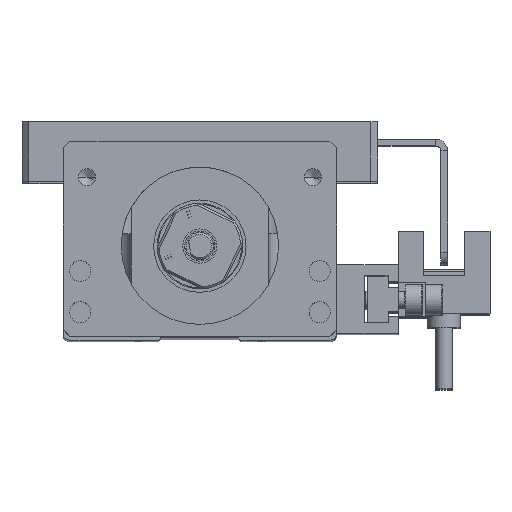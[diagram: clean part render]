
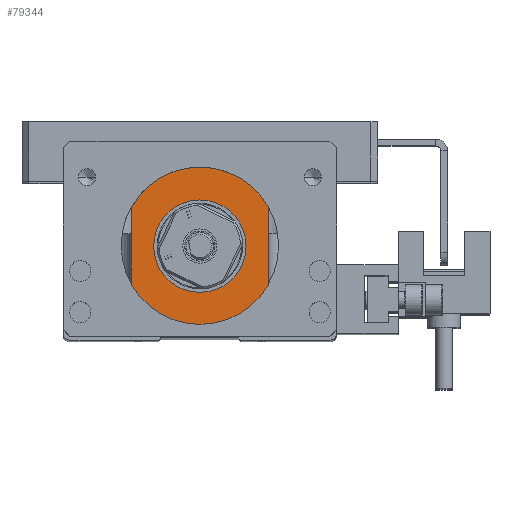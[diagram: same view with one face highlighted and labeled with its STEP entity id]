
A CAD part, top view. The second image highlights one B-rep face of the part: STEP entity #79344.
In plain terms, the highlighted planar face has unit normal (0, 0, 1).
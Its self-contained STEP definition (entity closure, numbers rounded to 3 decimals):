
#46 = CIRCLE ( 'NONE', #11444, 6.75 ) ;
#2218 = EDGE_CURVE ( 'NONE', #32791, #12548, #69938, .T. ) ;
#2838 = CARTESIAN_POINT ( 'NONE',  ( 10., 29., 90. ) ) ;
#3099 = CARTESIAN_POINT ( 'NONE',  ( -10., 0.5, 90. ) ) ;
#3492 = LINE ( 'NONE', #17863, #14364 ) ;
#4366 = CARTESIAN_POINT ( 'NONE',  ( 10., 0.5, 90. ) ) ;
#4763 = EDGE_CURVE ( 'NONE', #48157, #70928, #46, .T. ) ;
#9399 = LINE ( 'NONE', #3099, #43580 ) ;
#9774 = DIRECTION ( 'NONE',  ( 0., 1., 0. ) ) ;
#9892 = CARTESIAN_POINT ( 'NONE',  ( 0., 13.7, 90. ) ) ;
#10302 = CIRCLE ( 'NONE', #14619, 6.75 ) ;
#10621 = CARTESIAN_POINT ( 'NONE',  ( 0., 13.7, 90. ) ) ;
#11444 = AXIS2_PLACEMENT_3D ( 'NONE', #9892, #16633, #43167 ) ;
#12089 = CARTESIAN_POINT ( 'NONE',  ( -13., 0.5, 90. ) ) ;
#12548 = VERTEX_POINT ( 'NONE', #2838 ) ;
#14364 = VECTOR ( 'NONE', #25950, 1000. ) ;
#14619 = AXIS2_PLACEMENT_3D ( 'NONE', #10621, #50218, #72600 ) ;
#15276 = LINE ( 'NONE', #35524, #88168 ) ;
#15856 = EDGE_CURVE ( 'NONE', #51857, #60239, #3492, .T. ) ;
#16253 = ORIENTED_EDGE ( 'NONE', *, *, #4763, .F. ) ;
#16633 = DIRECTION ( 'NONE',  ( 0., 0., 1. ) ) ;
#17120 = ORIENTED_EDGE ( 'NONE', *, *, #2218, .T. ) ;
#17863 = CARTESIAN_POINT ( 'NONE',  ( -10., 0.5, 90. ) ) ;
#18796 = ORIENTED_EDGE ( 'NONE', *, *, #35637, .T. ) ;
#19975 = LINE ( 'NONE', #47374, #34038 ) ;
#21036 = ORIENTED_EDGE ( 'NONE', *, *, #77551, .F. ) ;
#23771 = DIRECTION ( 'NONE',  ( 0., -1., 0. ) ) ;
#24292 = CARTESIAN_POINT ( 'NONE',  ( 10., 15.5, 90. ) ) ;
#25950 = DIRECTION ( 'NONE',  ( 0., -1., 0. ) ) ;
#26336 = CARTESIAN_POINT ( 'NONE',  ( -10., 0.5, 90. ) ) ;
#28665 = ORIENTED_EDGE ( 'NONE', *, *, #15856, .T. ) ;
#29468 = CARTESIAN_POINT ( 'NONE',  ( -10., 15.5, 90. ) ) ;
#30731 = EDGE_LOOP ( 'NONE', ( #47145, #18796, #28665, #37457, #59031, #17120 ) ) ;
#32791 = VERTEX_POINT ( 'NONE', #24292 ) ;
#34038 = VECTOR ( 'NONE', #40651, 1000. ) ;
#35352 = DIRECTION ( 'NONE',  ( 0., 1., 0. ) ) ;
#35524 = CARTESIAN_POINT ( 'NONE',  ( -13., 29., 90. ) ) ;
#35637 = EDGE_CURVE ( 'NONE', #64738, #51857, #9399, .T. ) ;
#37457 = ORIENTED_EDGE ( 'NONE', *, *, #72582, .F. ) ;
#37986 = EDGE_CURVE ( 'NONE', #12548, #64738, #15276, .T. ) ;
#40651 = DIRECTION ( 'NONE',  ( -1., 0., 0. ) ) ;
#42263 = DIRECTION ( 'NONE',  ( -1., 0., 0. ) ) ;
#43167 = DIRECTION ( 'NONE',  ( 1., 0., 0. ) ) ;
#43339 = VERTEX_POINT ( 'NONE', #4366 ) ;
#43580 = VECTOR ( 'NONE', #23771, 1000. ) ;
#43937 = CARTESIAN_POINT ( 'NONE',  ( 10., 29., 90. ) ) ;
#44908 = FACE_OUTER_BOUND ( 'NONE', #30731, .T. ) ;
#45348 = DIRECTION ( 'NONE',  ( 0., 0., -1. ) ) ;
#46147 = CARTESIAN_POINT ( 'NONE',  ( -6.75, 13.7, 90. ) ) ;
#46230 = CARTESIAN_POINT ( 'NONE',  ( 6.75, 13.7, 90. ) ) ;
#47145 = ORIENTED_EDGE ( 'NONE', *, *, #37986, .T. ) ;
#47374 = CARTESIAN_POINT ( 'NONE',  ( -13., 0.5, 90. ) ) ;
#48136 = AXIS2_PLACEMENT_3D ( 'NONE', #12089, #45348, #72714 ) ;
#48157 = VERTEX_POINT ( 'NONE', #46230 ) ;
#50218 = DIRECTION ( 'NONE',  ( 0., 0., 1. ) ) ;
#50609 = CARTESIAN_POINT ( 'NONE',  ( 10., 29., 90. ) ) ;
#51857 = VERTEX_POINT ( 'NONE', #29468 ) ;
#53252 = EDGE_CURVE ( 'NONE', #43339, #32791, #70907, .T. ) ;
#59031 = ORIENTED_EDGE ( 'NONE', *, *, #53252, .T. ) ;
#60239 = VERTEX_POINT ( 'NONE', #26336 ) ;
#64738 = VERTEX_POINT ( 'NONE', #73434 ) ;
#65557 = FACE_BOUND ( 'NONE', #77188, .T. ) ;
#67074 = VECTOR ( 'NONE', #9774, 1000. ) ;
#69938 = LINE ( 'NONE', #50609, #70174 ) ;
#70174 = VECTOR ( 'NONE', #35352, 1000. ) ;
#70907 = LINE ( 'NONE', #43937, #67074 ) ;
#70928 = VERTEX_POINT ( 'NONE', #46147 ) ;
#72582 = EDGE_CURVE ( 'NONE', #43339, #60239, #19975, .T. ) ;
#72600 = DIRECTION ( 'NONE',  ( 1., 0., 0. ) ) ;
#72714 = DIRECTION ( 'NONE',  ( -1., 0., 0. ) ) ;
#73434 = CARTESIAN_POINT ( 'NONE',  ( -10., 29., 90. ) ) ;
#77188 = EDGE_LOOP ( 'NONE', ( #16253, #21036 ) ) ;
#77551 = EDGE_CURVE ( 'NONE', #70928, #48157, #10302, .T. ) ;
#78998 = PLANE ( 'NONE',  #48136 ) ;
#79344 = ADVANCED_FACE ( 'NONE', ( #65557, #44908 ), #78998, .F. ) ;
#88168 = VECTOR ( 'NONE', #42263, 1000. ) ;
